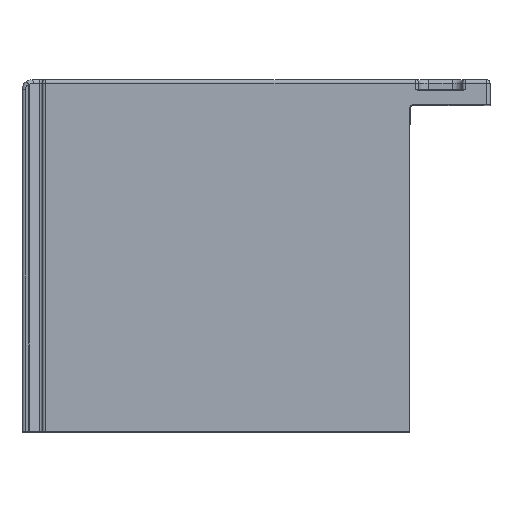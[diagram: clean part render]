
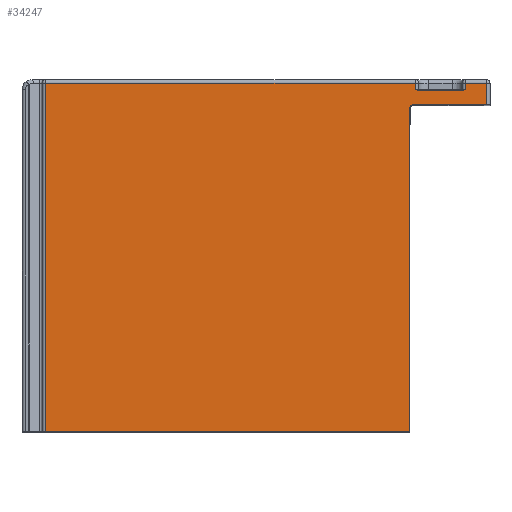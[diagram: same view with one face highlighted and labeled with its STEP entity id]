
A CAD part, top view. The second image highlights one B-rep face of the part: STEP entity #34247.
In plain terms, the highlighted planar face has unit normal (0, 0, 1).
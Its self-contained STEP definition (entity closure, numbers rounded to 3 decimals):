
#2=CARTESIAN_POINT('',(-108.394,32.3,70.));
#3=CARTESIAN_POINT('',(-108.351,32.3,70.));
#4=CARTESIAN_POINT('',(-108.266,32.308,70.));
#5=CARTESIAN_POINT('',(-108.142,32.337,70.));
#6=CARTESIAN_POINT('',(-108.021,32.382,70.));
#7=CARTESIAN_POINT('',(-107.906,32.437,70.));
#8=CARTESIAN_POINT('',(-107.833,32.479,70.));
#9=CARTESIAN_POINT('',(-107.798,32.5,70.));
#11=DIRECTION('',(0.,1.,0.));
#12=VECTOR('',#11,1.8);
#13=CARTESIAN_POINT('',(-107.5,32.7,70.));
#14=LINE('',#13,#12);
#15=DIRECTION('',(-1.,0.,0.));
#16=VECTOR('',#15,6.3);
#17=CARTESIAN_POINT('',(-101.2,34.5,70.));
#18=LINE('',#17,#16);
#19=DIRECTION('',(0.,1.,0.));
#20=VECTOR('',#19,6.5);
#21=CARTESIAN_POINT('',(-101.2,28.,70.));
#22=LINE('',#21,#20);
#23=DIRECTION('',(1.,0.,0.));
#24=VECTOR('',#23,22.);
#25=CARTESIAN_POINT('',(-123.2,28.,70.));
#26=LINE('',#25,#24);
#27=DIRECTION('',(0.,1.,0.));
#28=VECTOR('',#27,96.5);
#29=CARTESIAN_POINT('',(-124.2,-69.5,70.));
#30=LINE('',#29,#28);
#31=DIRECTION('',(-1.,0.,0.));
#32=VECTOR('',#31,108.8);
#33=CARTESIAN_POINT('',(-124.2,-69.5,70.));
#34=LINE('',#33,#32);
#35=DIRECTION('',(0.,-1.,0.));
#36=VECTOR('',#35,104.);
#37=CARTESIAN_POINT('',(-233.,34.5,70.));
#38=LINE('',#37,#36);
#39=DIRECTION('',(-1.,0.,0.));
#40=VECTOR('',#39,110.5);
#41=CARTESIAN_POINT('',(-122.5,34.5,70.));
#42=LINE('',#41,#40);
#43=DIRECTION('',(0.,-1.,0.));
#44=VECTOR('',#43,1.8);
#45=CARTESIAN_POINT('',(-122.5,34.5,70.));
#46=LINE('',#45,#44);
#47=CARTESIAN_POINT('',(-122.202,32.5,70.));
#48=CARTESIAN_POINT('',(-122.168,32.479,70.));
#49=CARTESIAN_POINT('',(-122.1,32.44,70.));
#50=CARTESIAN_POINT('',(-121.997,32.39,70.));
#51=CARTESIAN_POINT('',(-121.897,32.351,70.));
#52=CARTESIAN_POINT('',(-121.798,32.322,70.));
#53=CARTESIAN_POINT('',(-121.703,32.304,70.));
#54=CARTESIAN_POINT('',(-121.638,32.3,70.));
#55=CARTESIAN_POINT('',(-121.606,32.3,70.));
#57=DIRECTION('',(1.,0.,0.));
#58=VECTOR('',#57,13.211);
#59=CARTESIAN_POINT('',(-121.606,32.3,70.));
#60=LINE('',#59,#58);
#95=CARTESIAN_POINT('',(-122.5,32.7,70.));
#96=CARTESIAN_POINT('',(-122.466,32.676,70.));
#97=CARTESIAN_POINT('',(-122.4,32.629,70.));
#98=CARTESIAN_POINT('',(-122.301,32.562,70.));
#99=CARTESIAN_POINT('',(-122.235,32.52,70.));
#100=CARTESIAN_POINT('',(-122.202,32.5,70.));
#15572=CARTESIAN_POINT('',(-107.798,32.5,
70.));
#15573=CARTESIAN_POINT('',(-107.761,32.522,
70.));
#15574=CARTESIAN_POINT('',(-107.691,32.567,
70.));
#15575=CARTESIAN_POINT('',(-107.591,32.636,
70.));
#15576=CARTESIAN_POINT('',(-107.53,32.679,
70.));
#15577=CARTESIAN_POINT('',(-107.5,32.7,70.));
#23688=CARTESIAN_POINT('',(-123.2,27.,70.));
#23689=DIRECTION('',(0.,0.,-1.));
#23690=DIRECTION('',(-1.,0.,0.));
#23691=AXIS2_PLACEMENT_3D('',#23688,#23689,#23690);
#26876=CARTESIAN_POINT('',(-124.2,-69.5,70.));
#26877=VERTEX_POINT('',#26876);
#27544=CARTESIAN_POINT('',(-233.,-69.5,70.));
#27546=VERTEX_POINT('',#27544);
#27594=CARTESIAN_POINT('',(-233.,34.5,70.));
#27595=VERTEX_POINT('',#27594);
#27599=CARTESIAN_POINT('',(-123.2,28.,70.));
#27601=VERTEX_POINT('',#27599);
#27603=CARTESIAN_POINT('',(-124.2,27.,70.));
#27605=VERTEX_POINT('',#27603);
#29730=CARTESIAN_POINT('',(-122.5,34.5,70.));
#29732=VERTEX_POINT('',#29730);
#29755=CARTESIAN_POINT('',(-107.5,34.5,70.));
#29756=VERTEX_POINT('',#29755);
#29757=CARTESIAN_POINT('',(-101.2,34.5,70.));
#29758=VERTEX_POINT('',#29757);
#29767=CARTESIAN_POINT('',(-121.606,32.3,70.));
#29768=CARTESIAN_POINT('',(-108.394,32.3,70.));
#29769=VERTEX_POINT('',#29767);
#29770=VERTEX_POINT('',#29768);
#29777=CARTESIAN_POINT('',(-107.5,32.7,70.));
#29779=VERTEX_POINT('',#29777);
#29801=CARTESIAN_POINT('',(-122.5,32.7,70.));
#29802=VERTEX_POINT('',#29801);
#29803=VERTEX_POINT('',#47);
#29804=VERTEX_POINT('',#9);
#32909=CARTESIAN_POINT('',(-101.2,28.,70.));
#32911=VERTEX_POINT('',#32909);
#34210=CARTESIAN_POINT('',(0.,0.,70.));
#34211=DIRECTION('',(0.,0.,1.));
#34212=DIRECTION('',(1.,0.,0.));
#34213=AXIS2_PLACEMENT_3D('',#34210,#34211,#34212);
#34214=PLANE('',#34213);
#34216=ORIENTED_EDGE('',*,*,#34215,.T.);
#34218=ORIENTED_EDGE('',*,*,#34217,.T.);
#34220=ORIENTED_EDGE('',*,*,#34219,.T.);
#34222=ORIENTED_EDGE('',*,*,#34221,.F.);
#34224=ORIENTED_EDGE('',*,*,#34223,.F.);
#34226=ORIENTED_EDGE('',*,*,#34225,.F.);
#34228=ORIENTED_EDGE('',*,*,#34227,.F.);
#34230=ORIENTED_EDGE('',*,*,#34229,.F.);
#34232=ORIENTED_EDGE('',*,*,#34231,.T.);
#34234=ORIENTED_EDGE('',*,*,#34233,.F.);
#34236=ORIENTED_EDGE('',*,*,#34235,.F.);
#34238=ORIENTED_EDGE('',*,*,#34237,.T.);
#34240=ORIENTED_EDGE('',*,*,#34239,.T.);
#34242=ORIENTED_EDGE('',*,*,#34241,.T.);
#34244=ORIENTED_EDGE('',*,*,#34243,.T.);
#34245=EDGE_LOOP('',(#34216,#34218,#34220,#34222,#34224,#34226,#34228,#34230,
#34232,#34234,#34236,#34238,#34240,#34242,#34244));
#34246=FACE_OUTER_BOUND('',#34245,.F.);
#34247=ADVANCED_FACE('',(#34246),#34214,.T.);
#10=B_SPLINE_CURVE_WITH_KNOTS('',3,(#2,#3,#4,#5,#6,#7,#8,#9),.UNSPECIFIED.,.F.,
.F.,(4,1,1,1,1,4),(0.,0.2,0.4,0.6,0.8,1.),.UNSPECIFIED.);
#56=B_SPLINE_CURVE_WITH_KNOTS('',3,(#47,#48,#49,#50,#51,#52,#53,#54,#55),
.UNSPECIFIED.,.F.,.F.,(4,1,1,1,1,1,4),(0.,0.167,0.333,
0.5,0.667,0.833,1.),.UNSPECIFIED.);
#101=B_SPLINE_CURVE_WITH_KNOTS('',3,(#95,#96,#97,#98,#99,#100),.UNSPECIFIED.,
.F.,.F.,(4,1,1,4),(0.,0.333,0.667,1.),
.UNSPECIFIED.);
#15578=B_SPLINE_CURVE_WITH_KNOTS('',3,(#15572,#15573,#15574,#15575,#15576,
#15577),.UNSPECIFIED.,.F.,.F.,(4,1,1,4),(0.,0.333,
0.667,1.),.UNSPECIFIED.);
#23692=CIRCLE('',#23691,1.);
#34215=EDGE_CURVE('',#29770,#29804,#10,.T.);
#34217=EDGE_CURVE('',#29804,#29779,#15578,.T.);
#34219=EDGE_CURVE('',#29779,#29756,#14,.T.);
#34221=EDGE_CURVE('',#29758,#29756,#18,.T.);
#34223=EDGE_CURVE('',#32911,#29758,#22,.T.);
#34225=EDGE_CURVE('',#27601,#32911,#26,.T.);
#34227=EDGE_CURVE('',#27605,#27601,#23692,.T.);
#34229=EDGE_CURVE('',#26877,#27605,#30,.T.);
#34231=EDGE_CURVE('',#26877,#27546,#34,.T.);
#34233=EDGE_CURVE('',#27595,#27546,#38,.T.);
#34235=EDGE_CURVE('',#29732,#27595,#42,.T.);
#34237=EDGE_CURVE('',#29732,#29802,#46,.T.);
#34239=EDGE_CURVE('',#29802,#29803,#101,.T.);
#34241=EDGE_CURVE('',#29803,#29769,#56,.T.);
#34243=EDGE_CURVE('',#29769,#29770,#60,.T.);
